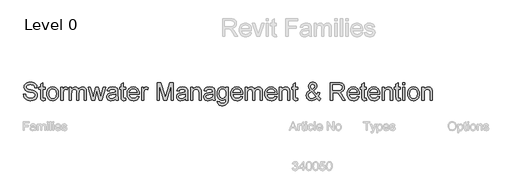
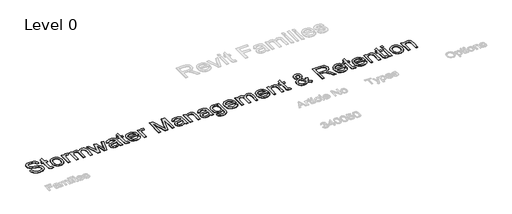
# One storey, part 8 of 10: 1 proxy.
"""IFC4 building model written with IfcOpenShell, lengths in millimetres."""

from ifc_helpers import new_model, si_unit, origin, origin_with_axes, place, context, project, spatial, polyline, outline, extrude, element, save

model = new_model("IFC4")

# Units and contexts
model_context = context("Model", 3, world=origin())
ifc_project = project(units=[si_unit("LENGTHUNIT", "METRE", prefix="MILLI")], contexts=[model_context])

# Site, building, storey
site = spatial("IfcSite", under=ifc_project)
building = spatial("IfcBuilding", under=site)
storey = spatial("IfcBuildingStorey", under=building, Name="Level 0", Elevation=0.0)

# Proxy
placement = place(None, origin())
element("IfcBuildingElementProxy", 1, Name="600mm Arial", ObjectType="600mm Arial", at=placement, inside=storey, context=model_context, shape_type="SweptSolid", body=[
    extrude(outline(polyline([(-15377.5518353, 12861.018595), (-15302.2096027, 12861.018595), (-15293.5643758, 12819.2088063), (-15277.9293911, 12785.602786), (-15253.5388148, 12758.9313414), (-15218.6268134, 12737.9252794), (-15175.952502, 12724.2952515), (-15128.2749954, 12719.7519089), (-15086.2996598, 12723.1916055), (-15049.5482484, 12733.5106955), (-15019.7682009, 12749.8446561), (-14998.7069567, 12771.3289646), (-14986.1805748, 12795.9954524), (-14982.0051141, 12821.8759507), (-14985.1321111, 12847.0942615), (-14994.513102, 12868.8912697), (-15013.5693893, 12887.4877046), (-15045.7222757, 12903.1042953), (-15155.4246867, 12931.8726673), (-15227.4375872, 12950.9105605), (-15273.5148071, 12969.0287488), (-15311.0203765, 12994.3758183), (-15337.5998507, 13025.0939649), (-15353.4371706, 13060.521001), (-15358.7162772, 13099.9947391), (-15357.0838008, 13122.4309423), (-15352.1863718, 13144.1221844), (-15344.02399, 13165.0684655), (-15332.5966555, 13185.2697856), (-15318.0331271, 13203.9030086), (-15300.4621633, 13220.1449987), (-15279.8837642, 13233.9957558), (-15256.2979297, 13245.45528), (-15203.2861342, 13260.8511415), (-15144.608956, 13265.9830953), (-15081.0389472, 13260.6120182), (-15025.4151896, 13244.4987868), (-15001.0797956, 13232.4966367), (-14979.7242458, 13217.9744949), (-14961.3485401, 13200.9323615), (-14945.9526786, 13181.3702364), (-14933.6562229, 13159.8583368), (-14924.5787347, 13136.9668796), (-14918.7202139, 13112.695865), (-14916.0806606, 13087.0452929), (-14991.4228932, 13087.0452929), (-14996.4628765, 13111.0863812), (-15005.2552562, 13132.0004727), (-15017.8000323, 13149.7875671), (-15034.0972046, 13164.4476646), (-15054.450276, 13175.9071888), (-15079.1627491, 13184.0925632), (-15108.2346237, 13189.0037878), (-15141.6659, 13190.6408627), (-15176.1640341, 13189.0221819), (-15205.640579, 13184.1661396), (-15230.0955346, 13176.0727357), (-15249.528901, 13164.7419702), (-15264.3361513, 13151.1211394), (-15274.9127587, 13136.1575392), (-15281.2587231, 13119.8511698), (-15283.3740446, 13102.2020311), (-15281.8749254, 13087.0177017), (-15277.3775681, 13073.249718), (-15269.8819724, 13060.89808), (-15259.3881385, 13049.9627877), (-15242.8702369, 13039.6069096), (-15216.8609799, 13029.1406668), (-15136.3683993, 13007.8770875), (-15053.3006448, 12987.680366), (-15003.0479643, 12970.0588184), (-14960.0977413, 12942.7251861), (-14943.4924678, 12926.65794), (-14930.1337528, 12908.9904072), (-14919.8652466, 12889.8145582), (-14912.5305993, 12869.2223635), (-14906.6628815, 12823.7889371), (-14908.3505402, 12800.2214968), (-14913.4135161, 12777.3438352), (-14921.8518094, 12755.1559524), (-14933.66542, 12733.6578483), (-14948.6474142, 12713.681856), (-14966.5908585, 12696.0603084), (-14987.4957529, 12680.7932056), (-15011.3620973, 12667.8805476), (-15037.4955146, 12657.6120414), (-15065.2016273, 12650.2773941), (-15125.3319395, 12644.4096763), (-15163.872177, 12645.9915688), (-15199.1474618, 12650.7372466), (-15231.1577939, 12658.6467095), (-15259.9031733, 12669.7199575), (-15285.5583439, 12683.9753848), (-15308.2980498, 12701.4313855), (-15328.1222908, 12722.0879595), (-15345.031067, 12745.9451069), (-15358.6518978, 12772.2302755), (-15368.6123029, 12800.170913), (-15374.912282, 12829.7670195), (-15377.5518353, 12861.018595)])), origin_with_axes(), (0.0, 0.0, 1.0), 10.0),
    extrude(outline(polyline([(-14642.9650674, 12716.6617001), (-14633.5472883, 12651.6201634), (-14689.90681, 12644.4096763), (-14726.0696101, 12647.5366732), (-14753.0353603, 12656.9176641), (-14772.0916477, 12671.3754265), (-14784.5260591, 12689.7327381), (-14791.3686642, 12721.2602251), (-14793.6495326, 12775.2285137), (-14793.6495326, 13021.1208393), (-14850.1562071, 13021.1208393), (-14850.1562071, 13096.4630719), (-14793.6495326, 13096.4630719), (-14793.6495326, 13204.0317673), (-14718.3073, 13248.3247595), (-14718.3073, 13096.4630719), (-14642.9650674, 13096.4630719), (-14642.9650674, 13021.1208393), (-14718.3073, 13021.1208393), (-14718.3073, 12777.4358057), (-14714.3341744, 12738.587467), (-14701.4583046, 12724.8286804), (-14690.5873917, 12721.0211018), (-14675.7801413, 12719.7519089), (-14642.9650674, 12716.6617001)])), origin_with_axes(), (0.0, 0.0, 1.0), 10.0),
    extrude(outline(polyline([(-14586.4583929, 12875.1452636), (-14582.3840998, 12932.4704755), (-14570.1612205, 12981.8678304), (-14549.789755, 13023.3373283), (-14521.2697034, 13056.8789693), (-14492.5565136, 13078.3172925), (-14460.8634798, 13093.6303806), (-14426.1906017, 13102.8182334), (-14388.5378795, 13105.880851), (-14346.9718126, 13102.1514473), (-14309.3880682, 13090.9632361), (-14275.7866465, 13072.3162175), (-14246.1675474, 13046.2103914), (-14221.9931018, 13013.5286746), (-14204.7256406, 12975.153984), (-14194.3651639, 12931.0863195), (-14190.9116717, 12881.3256812), (-14192.438382, 12840.9966174), (-14197.0185128, 12805.2108964), (-14204.6520642, 12773.9685179), (-14215.3390362, 12747.2694821), (-14228.9460715, 12724.2078795), (-14245.3398129, 12703.8778008), (-14264.5202604, 12686.2792458), (-14286.4874141, 12671.4122147), (-14310.3859482, 12659.5986041), (-14335.3605371, 12651.1603109), (-14361.4111809, 12646.0973349), (-14388.5378795, 12644.4096763), (-14430.7109517, 12648.1252844), (-14468.644184, 12659.2721089), (-14502.3375762, 12677.8501496), (-14531.7911284, 12703.8594067), (-14555.7080566, 12736.8584216), (-14572.7915768, 12776.4057361), (-14583.0416889, 12822.5013501), (-14586.4583929, 12875.1452636)]), holes=[polyline([(-14511.1161603, 12875.2924164), (-14508.9364595, 12838.7479387), (-14502.397357, 12807.1054886), (-14491.4988529, 12780.3650661), (-14476.2409472, 12758.5266712), (-14457.6813005, 12741.5627127), (-14436.8775737, 12729.4455994), (-14413.8297667, 12722.1753315), (-14388.5378795, 12719.7519089), (-14363.374751, 12722.1891271), (-14340.4189145, 12729.5007817), (-14319.67037, 12741.6868728), (-14301.1291175, 12758.7474004), (-14285.8712117, 12780.801926), (-14274.9727076, 12807.9700113), (-14268.4336051, 12840.2516564), (-14266.2539043, 12877.6468612), (-14268.4474007, 12913.0325106), (-14275.0278899, 12943.8472262), (-14285.9953719, 12970.0910081), (-14301.3498467, 12991.7638561), (-14319.9600771, 13008.7278146), (-14340.694826, 13020.8449278), (-14363.5540935, 13028.1151958), (-14388.5378795, 13030.5386184), (-14413.8297667, 13028.1243928), (-14436.8775737, 13020.881716), (-14457.6813005, 13008.8105881), (-14476.2409472, 12991.9110089), (-14491.4988529, 12970.1369933), (-14502.397357, 12943.442556), (-14508.9364595, 12911.8276971), (-14511.1161603, 12875.2924164)])]), origin_with_axes(), (0.0, 0.0, 1.0), 10.0),
    extrude(outline(polyline([(-14106.15166, 12653.8274553), (-14106.15166, 13096.4630719), (-14040.2272065, 13096.4630719), (-14040.2272065, 13030.9800768), (-14015.8734184, 13068.9454987), (-13993.4326167, 13091.312724), (-13970.9182386, 13102.2388193), (-13946.3437213, 13105.880851), (-13908.8197578, 13100.0683155), (-13870.7071831, 13082.6307089), (-13895.8703116, 13015.0875746), (-13922.3578152, 13026.6758574), (-13948.8453189, 13030.5386184), (-13971.3413029, 13026.8230102), (-13991.4460539, 13015.6761858), (-14007.688044, 12997.9442736), (-14018.5957452, 12974.4734023), (-14027.7560068, 12932.3877021), (-14030.8094274, 12886.4760291), (-14030.8094274, 12653.8274553), (-14106.15166, 12653.8274553)])), origin_with_axes(), (0.0, 0.0, 1.0), 10.0),
    extrude(outline(polyline([(-13823.6182877, 12653.8274553), (-13823.6182877, 13096.4630719), (-13748.2760551, 13096.4630719), (-13748.2760551, 13023.6224369), (-13725.6145242, 13057.0813043), (-13696.4782702, 13083.2928965), (-13661.8605744, 13100.2338624), (-13622.7547184, 13105.880851), (-13580.8529591, 13100.1234978), (-13563.0198794, 13092.9268063), (-13547.2653329, 13082.8514381), (-13522.1757809, 13055.2051062), (-13505.7682439, 13018.3249362), (-13478.3058529, 13056.6306489), (-13446.9807011, 13083.9918723), (-13411.7927882, 13100.4086063), (-13372.7421144, 13105.880851), (-13342.5803894, 13103.6045812), (-13316.1066813, 13096.7757716), (-13293.3209902, 13085.3944224), (-13274.2233161, 13069.4605335), (-13259.1263587, 13048.7901639), (-13248.3428178, 13023.1993726), (-13241.8726932, 12992.6881596), (-13239.715985, 12957.256525), (-13239.715985, 12653.8274553), (-13315.0582176, 12653.8274553), (-13315.0582176, 12924.8829094), (-13316.8056571, 12962.4620552), (-13322.0479755, 12987.7907306), (-13331.8704248, 13005.1363666), (-13347.3582568, 13018.7663946), (-13367.2790668, 13027.5955624), (-13390.4004502, 13030.5386184), (-13411.7514015, 13028.6532232), (-13431.2169576, 13022.9970375), (-13448.7971184, 13013.5700614), (-13464.491884, 13000.3722948), (-13477.3999435, 12983.0174617), (-13486.619986, 12961.1192859), (-13492.1520115, 12934.6777675), (-13493.99602, 12903.6929065), (-13493.99602, 12653.8274553), (-13569.3382527, 12653.8274553), (-13569.3382527, 12933.2706189), (-13573.6976543, 12975.8713539), (-13579.1469063, 12992.5915906), (-13586.7758592, 13006.2584067), (-13596.8880156, 13016.8809993), (-13609.786878, 13024.4685655), (-13625.4724466, 13029.0211052), (-13643.9447213, 13030.5386184), (-13672.9706107, 13026.4919164), (-13699.7156317, 13014.3518106), (-13721.7885515, 12994.4126065), (-13736.7981369, 12966.9686096), (-13745.4065755, 12928.8928231), (-13748.2760551, 12877.05825), (-13748.2760551, 12653.8274553), (-13823.6182877, 12653.8274553)])), origin_with_axes(), (0.0, 0.0, 1.0), 10.0),
    extrude(outline(polyline([(-13053.2733898, 12653.8274553), (-13187.9182001, 13096.4630719), (-13109.6329115, 13096.4630719), (-13033.2606093, 12838.2099113), (-13010.4519256, 12745.9451069), (-12991.7635202, 12834.825397), (-12930.9894146, 13096.4630719), (-12841.2262078, 13096.4630719), (-12780.7464078, 12835.561161), (-12764.1181416, 12755.0685804), (-12740.2793883, 12839.9757449), (-12663.7599333, 13096.4630719), (-12585.1803392, 13096.4630719), (-12720.855219, 12653.8274553), (-12811.942801, 12653.8274553), (-12869.7738506, 12913.4049911), (-12886.5492696, 12994.3390301), (-12961.1557382, 12653.8274553), (-13053.2733898, 12653.8274553)])), origin_with_axes(), (0.0, 0.0, 1.0), 10.0),
    extrude(outline(polyline([(-12250.8491819, 12710.3341298), (-12286.8464352, 12679.4688304), (-12323.9105462, 12659.2721089), (-12362.8876436, 12648.1252844), (-12404.6238559, 12644.4096763), (-12438.1700954, 12646.6445594), (-12467.5868594, 12653.3492087), (-12492.874148, 12664.5236243), (-12514.0319613, 12680.1678062), (-12530.7384024, 12699.2884729), (-12542.6715746, 12720.8923431), (-12549.8314779, 12744.9794167), (-12552.2181124, 12771.5496938), (-12548.6128688, 12802.7828752), (-12537.7971382, 12831.146577), (-12521.1136897, 12855.4267887), (-12499.9052927, 12874.4094996), (-12474.9812875, 12888.7568975), (-12447.1510146, 12899.1311697), (-12381.962325, 12910.4619352), (-12304.9278352, 12922.3813118), (-12251.2906403, 12936.3608276), (-12250.8491819, 12953.1362466), (-12256.0363181, 12986.760661), (-12262.5202382, 12999.2134665), (-12271.5977265, 13008.7600043), (-12287.2878936, 13018.288148), (-12306.3993632, 13025.0939649), (-12354.8862102, 13030.5386184), (-12399.7678136, 13026.9149807), (-12431.1113596, 13016.0440678), (-12452.4853035, 12995.9393167), (-12467.4581007, 12964.6141649), (-12542.8003333, 12974.0319439), (-12529.7221284, 13015.2347274), (-12510.2059885, 13047.608343), (-12482.4308979, 13072.3668012), (-12444.5758406, 13090.7241128), (-12398.2778915, 13102.0916665), (-12345.1741255, 13105.880851), (-12294.2408633, 13102.5331249), (-12253.8658143, 13092.4899464), (-12223.4235792, 13077.3883905), (-12202.2887586, 13058.865532), (-12188.2724546, 13035.9648778), (-12179.1857693, 13007.7299347), (-12175.5069493, 12941.8054812), (-12175.5069493, 12848.0691488), (-12171.6809766, 12717.1767349), (-12166.0155939, 12684.8215134), (-12156.6713912, 12653.8274553), (-12232.0136238, 12653.8274553), (-12244.0801532, 12680.0206534), (-12250.8491819, 12710.3341298)]), holes=[polyline([(-12250.8491819, 12861.018595), (-12301.4697445, 12848.473819), (-12372.3973931, 12837.9156057), (-12437.2182007, 12825.7019235), (-12454.0855902, 12817.3510022), (-12466.5751839, 12805.8362957), (-12474.3007058, 12792.0407209), (-12476.8758798, 12776.8471945), (-12471.2656793, 12754.443181), (-12454.4350781, 12736.0858695), (-12426.7519579, 12723.835399), (-12388.5842009, 12719.7519089), (-12348.1171815, 12724.2584633), (-12312.3590515, 12737.7781266), (-12283.3699503, 12757.6989367), (-12263.210017, 12781.4089313), (-12254.2704845, 12805.8362957), (-12251.2906403, 12839.6814393), (-12250.8491819, 12861.018595)])]), origin_with_axes(), (0.0, 0.0, 1.0), 10.0),
    extrude(outline(polyline([(-11911.8091352, 12716.6617001), (-11902.3913561, 12651.6201634), (-11958.7508778, 12644.4096763), (-11994.9136779, 12647.5366732), (-12021.8794281, 12656.9176641), (-12040.9357155, 12671.3754265), (-12053.3701269, 12689.7327381), (-12060.212732, 12721.2602251), (-12062.4936004, 12775.2285137), (-12062.4936004, 13021.1208393), (-12119.0002749, 13021.1208393), (-12119.0002749, 13096.4630719), (-12062.4936004, 13096.4630719), (-12062.4936004, 13204.0317673), (-11987.1513678, 13248.3247595), (-11987.1513678, 13096.4630719), (-11911.8091352, 13096.4630719), (-11911.8091352, 13021.1208393), (-11987.1513678, 13021.1208393), (-11987.1513678, 12777.4358057), (-11983.1782422, 12738.587467), (-11970.3023724, 12724.8286804), (-11959.4314595, 12721.0211018), (-11944.6242092, 12719.7519089), (-11911.8091352, 12716.6617001)])), origin_with_axes(), (0.0, 0.0, 1.0), 10.0),
    extrude(outline(polyline([(-11526.5631098, 12785.6763624), (-11452.6924052, 12776.2585833), (-11464.0185721, 12746.6716739), (-11479.3086676, 12720.5980375), (-11498.5626915, 12698.0376741), (-11521.7806439, 12678.9905838), (-11548.7234015, 12663.8614368), (-11579.151841, 12653.0549031), (-11613.0659625, 12646.570983), (-11650.4657658, 12644.4096763), (-11697.2143703, 12648.13908), (-11738.8678093, 12659.3272912), (-11775.4260825, 12677.9743098), (-11806.8891902, 12704.0801359), (-11832.1902744, 12736.9182025), (-11850.2624774, 12775.7619426), (-11861.1057992, 12820.6113564), (-11864.7202398, 12871.4664437), (-11861.069011, 12924.0459778), (-11850.1153246, 12970.3899122), (-11831.8591806, 13010.4982467), (-11806.300579, 13044.3709814), (-11774.9202448, 13071.2815494), (-11739.198903, 13090.5033836), (-11699.1365538, 13102.0364842), (-11654.733197, 13105.880851), (-11611.7599814, 13102.0456812), (-11572.8978471, 13090.5401718), (-11538.1467942, 13071.3643228), (-11507.5068225, 13044.5181342), (-11482.4954453, 13010.7189759), (-11464.6301759, 12970.6842178), (-11453.9110143, 12924.4138598), (-11450.3379604, 12871.9079021), (-11450.7794188, 12851.6008159), (-11789.3780072, 12851.6008159), (-11785.014007, 12821.5356599), (-11776.3365905, 12795.2045061), (-11763.3457575, 12772.6073545), (-11746.0415082, 12753.7442052), (-11725.3803356, 12738.8725756), (-11702.318733, 12728.249983), (-11676.8567004, 12721.8764274), (-11648.9942378, 12719.7519089), (-11608.8951004, 12723.6882462), (-11575.1235332, 12735.4972583), (-11547.6795364, 12755.914709), (-11526.5631098, 12785.6763624)]), holes=[polyline([(-11789.3780072, 12926.9430486), (-11525.680193, 12926.9430486), (-11535.8705243, 12966.7478804), (-11544.6353128, 12982.4012593), (-11555.8465167, 12995.2219469), (-11576.3927261, 13010.6729907), (-11599.7716269, 13021.7094505), (-11625.983219, 13028.3313264), (-11655.0275026, 13030.5386184), (-11681.5196047, 13028.7773833), (-11705.813612, 13023.4936782), (-11727.9095243, 13014.6875029), (-11747.8073417, 13002.3588576), (-11764.5045858, 12987.0779592), (-11776.9987781, 12969.4150249), (-11785.2899185, 12949.3700547), (-11789.3780072, 12926.9430486)])]), origin_with_axes(), (0.0, 0.0, 1.0), 10.0),
    extrude(outline(polyline([(-11374.9957278, 12653.8274553), (-11374.9957278, 13096.4630719), (-11309.0712743, 13096.4630719), (-11309.0712743, 13030.9800768), (-11284.7174862, 13068.9454987), (-11262.2766845, 13091.312724), (-11239.7623064, 13102.2388193), (-11215.1877891, 13105.880851), (-11177.6638256, 13100.0683155), (-11139.5512509, 13082.6307089), (-11164.7143794, 13015.0875746), (-11191.201883, 13026.6758574), (-11217.6893867, 13030.5386184), (-11240.1853707, 13026.8230102), (-11260.2901217, 13015.6761858), (-11276.5321118, 12997.9442736), (-11287.439813, 12974.4734023), (-11296.6000746, 12932.3877021), (-11299.6534952, 12886.4760291), (-11299.6534952, 12653.8274553), (-11374.9957278, 12653.8274553)])), origin_with_axes(), (0.0, 0.0, 1.0), 10.0),
    extrude(outline(polyline([(-10847.6000995, 12653.8274553), (-10847.6000995, 13256.5653162), (-10717.9584844, 13256.5653162), (-10594.6444397, 12831.7351882), (-10569.7756168, 12743.002051), (-10542.8466547, 12839.0928281), (-10421.5927491, 13256.5653162), (-10291.951134, 13256.5653162), (-10291.951134, 12653.8274553), (-10367.2933666, 12653.8274553), (-10367.2933666, 13181.2230836), (-10518.7135958, 12653.8274553), (-10620.8376377, 12653.8274553), (-10772.2578669, 13181.2230836), (-10772.2578669, 12653.8274553), (-10847.6000995, 12653.8274553)])), origin_with_axes(), (0.0, 0.0, 1.0), 10.0),
    extrude(outline(polyline([(-9886.9866337, 12710.3341298), (-9922.983887, 12679.4688304), (-9960.047998, 12659.2721089), (-9999.0250954, 12648.1252844), (-10040.7613077, 12644.4096763), (-10074.3075472, 12646.6445594), (-10103.7243112, 12653.3492087), (-10129.0115998, 12664.5236243), (-10150.1694131, 12680.1678062), (-10166.8758542, 12699.2884729), (-10178.8090264, 12720.8923431), (-10185.9689297, 12744.9794167), (-10188.3555642, 12771.5496938), (-10184.7503206, 12802.7828752), (-10173.93459, 12831.146577), (-10157.2511415, 12855.4267887), (-10136.0427445, 12874.4094996), (-10111.1187393, 12888.7568975), (-10083.2884664, 12899.1311697), (-10018.0997768, 12910.4619352), (-9941.065287, 12922.3813118), (-9887.4280921, 12936.3608276), (-9886.9866337, 12953.1362466), (-9892.1737699, 12986.760661), (-9898.65769, 12999.2134665), (-9907.7351783, 13008.7600043), (-9923.4253454, 13018.288148), (-9942.536815, 13025.0939649), (-9991.023662, 13030.5386184), (-10035.9052654, 13026.9149807), (-10067.2488114, 13016.0440678), (-10088.6227553, 12995.9393167), (-10103.5955525, 12964.6141649), (-10178.9377851, 12974.0319439), (-10165.8595802, 13015.2347274), (-10146.3434403, 13047.608343), (-10118.5683497, 13072.3668012), (-10080.7132924, 13090.7241128), (-10034.4153433, 13102.0916665), (-9981.3115773, 13105.880851), (-9930.3783151, 13102.5331249), (-9890.0032661, 13092.4899464), (-9859.561031, 13077.3883905), (-9838.4262104, 13058.865532), (-9824.4099064, 13035.9648778), (-9815.3232211, 13007.7299347), (-9811.6444011, 12941.8054812), (-9811.6444011, 12848.0691488), (-9807.8184284, 12717.1767349), (-9802.1530456, 12684.8215134), (-9792.808843, 12653.8274553), (-9868.1510756, 12653.8274553), (-9880.217605, 12680.0206534), (-9886.9866337, 12710.3341298)]), holes=[polyline([(-9886.9866337, 12861.018595), (-9937.6071963, 12848.473819), (-10008.5348449, 12837.9156057), (-10073.3556525, 12825.7019235), (-10090.223042, 12817.3510022), (-10102.7126357, 12805.8362957), (-10110.4381576, 12792.0407209), (-10113.0133316, 12776.8471945), (-10107.4031311, 12754.443181), (-10090.5725299, 12736.0858695), (-10062.8894097, 12723.835399), (-10024.7216527, 12719.7519089), (-9984.2546333, 12724.2584633), (-9948.4965033, 12737.7781266), (-9919.5074021, 12757.6989367), (-9899.3474688, 12781.4089313), (-9890.4079363, 12805.8362957), (-9887.4280921, 12839.6814393), (-9886.9866337, 12861.018595)])]), origin_with_axes(), (0.0, 0.0, 1.0), 10.0),
    extrude(outline(polyline([(-9708.0488313, 12653.8274553), (-9708.0488313, 13096.4630719), (-9632.7065987, 13096.4630719), (-9632.7065987, 13034.6588967), (-9606.5317947, 13065.8185017), (-9575.0962782, 13088.0753624), (-9538.4000492, 13101.4294789), (-9496.4431077, 13105.880851), (-9459.3054202, 13102.2940016), (-9425.2947298, 13091.5334532), (-9396.931028, 13074.9419752), (-9376.7343064, 13053.8623369), (-9363.0307021, 13028.3497205), (-9354.1463519, 12998.4593084), (-9350.1732264, 12925.6186734), (-9350.1732264, 12653.8274553), (-9425.515459, 12653.8274553), (-9425.515459, 12915.4651303), (-9427.6859628, 12954.4238336), (-9434.1974741, 12982.1253478), (-9446.2088212, 13001.9725815), (-9464.8788325, 13017.368443), (-9488.8095563, 13027.2460745), (-9516.603041, 13030.5386184), (-9539.4807026, 13028.6900114), (-9560.7304863, 13023.1441903), (-9580.3523922, 13013.9011552), (-9598.3464203, 13000.960906), (-9613.3789983, 12982.8519148), (-9624.1165541, 12958.1026535), (-9630.5590875, 12926.7131223), (-9632.7065987, 12888.6833211), (-9632.7065987, 12653.8274553), (-9708.0488313, 12653.8274553)])), origin_with_axes(), (0.0, 0.0, 1.0), 10.0),
    extrude(outline(polyline([(-8964.0442842, 12710.3341298), (-9000.0415375, 12679.4688304), (-9037.1056485, 12659.2721089), (-9076.0827459, 12648.1252844), (-9117.8189582, 12644.4096763), (-9151.3651977, 12646.6445594), (-9180.7819617, 12653.3492087), (-9206.0692503, 12664.5236243), (-9227.2270636, 12680.1678062), (-9243.9335047, 12699.2884729), (-9255.8666769, 12720.8923431), (-9263.0265802, 12744.9794167), (-9265.4132147, 12771.5496938), (-9261.8079711, 12802.7828752), (-9250.9922405, 12831.146577), (-9234.308792, 12855.4267887), (-9213.100395, 12874.4094996), (-9188.1763898, 12888.7568975), (-9160.3461169, 12899.1311697), (-9095.1574273, 12910.4619352), (-9018.1229375, 12922.3813118), (-8964.4857426, 12936.3608276), (-8964.0442842, 12953.1362466), (-8969.2314204, 12986.760661), (-8975.7153405, 12999.2134665), (-8984.7928288, 13008.7600043), (-9000.4829959, 13018.288148), (-9019.5944655, 13025.0939649), (-9068.0813125, 13030.5386184), (-9112.9629159, 13026.9149807), (-9144.3064619, 13016.0440678), (-9165.6804058, 12995.9393167), (-9180.653203, 12964.6141649), (-9255.9954356, 12974.0319439), (-9242.9172307, 13015.2347274), (-9223.4010908, 13047.608343), (-9195.6260002, 13072.3668012), (-9157.7709429, 13090.7241128), (-9111.4729938, 13102.0916665), (-9058.3692278, 13105.880851), (-9007.4359656, 13102.5331249), (-8967.0609166, 13092.4899464), (-8936.6186815, 13077.3883905), (-8915.4838609, 13058.865532), (-8901.4675569, 13035.9648778), (-8892.3808716, 13007.7299347), (-8888.7020516, 12941.8054812), (-8888.7020516, 12848.0691488), (-8884.8760789, 12717.1767349), (-8879.2106961, 12684.8215134), (-8869.8664935, 12653.8274553), (-8945.2087261, 12653.8274553), (-8957.2752555, 12680.0206534), (-8964.0442842, 12710.3341298)]), holes=[polyline([(-8964.0442842, 12861.018595), (-9014.6648468, 12848.473819), (-9085.5924954, 12837.9156057), (-9150.413303, 12825.7019235), (-9167.2806925, 12817.3510022), (-9179.7702862, 12805.8362957), (-9187.4958081, 12792.0407209), (-9190.0709821, 12776.8471945), (-9184.4607816, 12754.443181), (-9167.6301804, 12736.0858695), (-9139.9470602, 12723.835399), (-9101.7793032, 12719.7519089), (-9061.3122838, 12724.2584633), (-9025.5541538, 12737.7781266), (-8996.5650526, 12757.6989367), (-8976.4051193, 12781.4089313), (-8967.4655868, 12805.8362957), (-8964.4857426, 12839.6814393), (-8964.0442842, 12861.018595)])]), origin_with_axes(), (0.0, 0.0, 1.0), 10.0),
    extrude(outline(polyline([(-8803.9420399, 12616.156339), (-8728.5998073, 12606.73856), (-8720.2856742, 12583.1941123), (-8704.1724428, 12567.0073045), (-8672.4978031, 12554.4257402), (-8631.0375022, 12550.2318855), (-8586.8180864, 12554.9775632), (-8568.9574155, 12560.9096604), (-8553.929436, 12569.2145964), (-8531.1207523, 12592.0232801), (-8517.1412365, 12622.4839093), (-8513.0577463, 12654.8943131), (-8511.9908886, 12710.3341298), (-8537.0620465, 12685.6124597), (-8565.0394723, 12667.9541239), (-8595.9231658, 12657.3591225), (-8629.713127, 12653.8274553), (-8671.0216765, 12657.9385366), (-8707.3914103, 12670.2717805), (-8738.8223283, 12690.827187), (-8765.3144304, 12719.6047561), (-8786.3342879, 12754.1304813), (-8801.3484719, 12791.9303563), (-8810.3569822, 12833.0043811), (-8813.359819, 12877.3525556), (-8807.9703478, 12938.1818435), (-8791.8019341, 12994.1183009), (-8779.8181781, 13019.3412102), (-8765.424795, 13041.519896), (-8748.6217849, 13060.6543582), (-8729.4091477, 13076.744597), (-8708.0949846, 13089.4917081), (-8684.9873968, 13098.5967875), (-8660.0863842, 13104.0598351), (-8633.391947, 13105.880851), (-8598.1580489, 13101.7605727), (-8566.1799064, 13089.3997376), (-8537.4575197, 13068.7983459), (-8511.9908886, 13039.9563975), (-8511.9908886, 13096.4630719), (-8436.6486559, 13096.4630719), (-8436.6486559, 12714.3072553), (-8441.7990039, 12626.0707588), (-8448.2369388, 12593.2510863), (-8457.2500477, 12567.9637977), (-8469.0544612, 12547.5693396), (-8483.86631, 12529.4281587), (-8501.6855942, 12513.540255), (-8522.5123136, 12499.9056286), (-8546.1349362, 12488.9611392), (-8572.3419299, 12481.1436468), (-8601.1332945, 12476.4531514), (-8632.5090302, 12474.8896529), (-8669.4213899, 12477.0923463), (-8702.6089444, 12483.7004267), (-8732.0716936, 12494.7138939), (-8757.8096377, 12510.132748), (-8778.599569, 12529.9753831), (-8793.2182798, 12554.2601933), (-8801.6657701, 12582.9871786), (-8803.9420399, 12616.156339)]), holes=[polyline([(-8738.0175864, 12882.5029035), (-8736.008031, 12845.250253), (-8729.9793648, 12813.3962707), (-8719.9315878, 12786.9409568), (-8705.8647, 12765.8843111), (-8688.7627858, 12749.8216635), (-8669.6099294, 12738.3483437), (-8648.4061309, 12731.4643519), (-8625.1513903, 12729.1696879), (-8602.1265759, 12731.4505563), (-8581.023945, 12738.2931614), (-8561.8434974, 12749.6975033), (-8544.5852333, 12765.6635819), (-8530.3252075, 12786.5132939), (-8520.1394748, 12812.5685363), (-8514.0280351, 12843.8293088), (-8511.9908886, 12880.2956116), (-8514.0878159, 12915.2398026), (-8520.378598, 12945.6130598), (-8530.8632349, 12971.4153832), (-8545.5417265, 12992.6467729), (-8563.1724711, 13009.2244553), (-8582.513867, 13021.065657), (-8603.5659142, 13028.1703781), (-8626.3286127, 13030.5386184), (-8648.7096335, 13028.2071663), (-8669.352412, 13021.2128098), (-8688.256948, 13009.5555491), (-8705.4232416, 12993.2353841), (-8719.6832675, 12972.3258912), (-8729.8690002, 12946.9006468), (-8735.9804398, 12916.9596509), (-8738.0175864, 12882.5029035)])]), origin_with_axes(), (0.0, 0.0, 1.0), 10.0),
    extrude(outline(polyline([(-8013.7315143, 12785.6763624), (-7939.8608097, 12776.2585833), (-7951.1869766, 12746.6716739), (-7966.477072, 12720.5980375), (-7985.7310959, 12698.0376741), (-8008.9490484, 12678.9905838), (-8035.891806, 12663.8614368), (-8066.3202455, 12653.0549031), (-8100.2343669, 12646.570983), (-8137.6341703, 12644.4096763), (-8184.3827748, 12648.13908), (-8226.0362137, 12659.3272912), (-8262.594487, 12677.9743098), (-8294.0575946, 12704.0801359), (-8319.3586788, 12736.9182025), (-8337.4308818, 12775.7619426), (-8348.2742037, 12820.6113564), (-8351.8886443, 12871.4664437), (-8348.2374155, 12924.0459778), (-8337.283729, 12970.3899122), (-8319.027585, 13010.4982467), (-8293.4689834, 13044.3709814), (-8262.0886492, 13071.2815494), (-8226.3673075, 13090.5033836), (-8186.3049582, 13102.0364842), (-8141.9016014, 13105.880851), (-8098.9283858, 13102.0456812), (-8060.0662516, 13090.5401718), (-8025.3151986, 13071.3643228), (-7994.6752269, 13044.5181342), (-7969.6638498, 13010.7189759), (-7951.7985804, 12970.6842178), (-7941.0794188, 12924.4138598), (-7937.5063649, 12871.9079021), (-7937.9478233, 12851.6008159), (-8276.5464116, 12851.6008159), (-8272.1824115, 12821.5356599), (-8263.5049949, 12795.2045061), (-8250.514162, 12772.6073545), (-8233.2099126, 12753.7442052), (-8212.5487401, 12738.8725756), (-8189.4871375, 12728.249983), (-8164.0251049, 12721.8764274), (-8136.1626423, 12719.7519089), (-8096.0635048, 12723.6882462), (-8062.2919377, 12735.4972583), (-8034.8479408, 12755.914709), (-8013.7315143, 12785.6763624)]), holes=[polyline([(-8276.5464116, 12926.9430486), (-8012.8485975, 12926.9430486), (-8023.0389288, 12966.7478804), (-8031.8037173, 12982.4012593), (-8043.0149211, 12995.2219469), (-8063.5611305, 13010.6729907), (-8086.9400313, 13021.7094505), (-8113.1516235, 13028.3313264), (-8142.195907, 13030.5386184), (-8168.6880092, 13028.7773833), (-8192.9820164, 13023.4936782), (-8215.0779288, 13014.6875029), (-8234.9757462, 13002.3588576), (-8251.6729902, 12987.0779592), (-8264.1671825, 12969.4150249), (-8272.458323, 12949.3700547), (-8276.5464116, 12926.9430486)])]), origin_with_axes(), (0.0, 0.0, 1.0), 10.0),
    extrude(outline(polyline([(-7862.1641323, 12653.8274553), (-7862.1641323, 13096.4630719), (-7786.8218997, 13096.4630719), (-7786.8218997, 13023.6224369), (-7764.1603688, 13057.0813043), (-7735.0241147, 13083.2928965), (-7700.406419, 13100.2338624), (-7661.3005629, 13105.880851), (-7619.3988037, 13100.1234978), (-7601.5657239, 13092.9268063), (-7585.8111775, 13082.8514381), (-7560.7216254, 13055.2051062), (-7544.3140884, 13018.3249362), (-7516.8516975, 13056.6306489), (-7485.5265456, 13083.9918723), (-7450.3386328, 13100.4086063), (-7411.287959, 13105.880851), (-7381.1262339, 13103.6045812), (-7354.6525258, 13096.7757716), (-7331.8668348, 13085.3944224), (-7312.7691607, 13069.4605335), (-7297.6722033, 13048.7901639), (-7286.8886623, 13023.1993726), (-7280.4185377, 12992.6881596), (-7278.2618295, 12957.256525), (-7278.2618295, 12653.8274553), (-7353.6040621, 12653.8274553), (-7353.6040621, 12924.8829094), (-7355.3515016, 12962.4620552), (-7360.5938201, 12987.7907306), (-7370.4162693, 13005.1363666), (-7385.9041013, 13018.7663946), (-7405.8249114, 13027.5955624), (-7428.9462948, 13030.5386184), (-7450.2972461, 13028.6532232), (-7469.7628021, 13022.9970375), (-7487.342963, 13013.5700614), (-7503.0377286, 13000.3722948), (-7515.9457881, 12983.0174617), (-7525.1658306, 12961.1192859), (-7530.6978561, 12934.6777675), (-7532.5418646, 12903.6929065), (-7532.5418646, 12653.8274553), (-7607.8840972, 12653.8274553), (-7607.8840972, 12933.2706189), (-7612.2434989, 12975.8713539), (-7617.6927509, 12992.5915906), (-7625.3217038, 13006.2584067), (-7635.4338601, 13016.8809993), (-7648.3327226, 13024.4685655), (-7664.0182912, 13029.0211052), (-7682.4905658, 13030.5386184), (-7711.5164553, 13026.4919164), (-7738.2614763, 13014.3518106), (-7760.334396, 12994.4126065), (-7775.3439814, 12966.9686096), (-7783.9524201, 12928.8928231), (-7786.8218997, 12877.05825), (-7786.8218997, 12653.8274553), (-7862.1641323, 12653.8274553)])), origin_with_axes(), (0.0, 0.0, 1.0), 10.0),
    extrude(outline(polyline([(-6855.3446879, 12785.6763624), (-6781.4739832, 12776.2585833), (-6792.8001502, 12746.6716739), (-6808.0902456, 12720.5980375), (-6827.3442695, 12698.0376741), (-6850.5622219, 12678.9905838), (-6877.5049796, 12663.8614368), (-6907.9334191, 12653.0549031), (-6941.8475405, 12646.570983), (-6979.2473439, 12644.4096763), (-7025.9959484, 12648.13908), (-7067.6493873, 12659.3272912), (-7104.2076606, 12677.9743098), (-7135.6707682, 12704.0801359), (-7160.9718524, 12736.9182025), (-7179.0440554, 12775.7619426), (-7189.8873772, 12820.6113564), (-7193.5018178, 12871.4664437), (-7189.850589, 12924.0459778), (-7178.8969026, 12970.3899122), (-7160.6407586, 13010.4982467), (-7135.082157, 13044.3709814), (-7103.7018228, 13071.2815494), (-7067.9804811, 13090.5033836), (-7027.9181318, 13102.0364842), (-6983.514775, 13105.880851), (-6940.5415594, 13102.0456812), (-6901.6794252, 13090.5401718), (-6866.9283722, 13071.3643228), (-6836.2884005, 13044.5181342), (-6811.2770234, 13010.7189759), (-6793.411754, 12970.6842178), (-6782.6925924, 12924.4138598), (-6779.1195385, 12871.9079021), (-6779.5609969, 12851.6008159), (-7118.1595852, 12851.6008159), (-7113.7955851, 12821.5356599), (-7105.1181685, 12795.2045061), (-7092.1273355, 12772.6073545), (-7074.8230862, 12753.7442052), (-7054.1619136, 12738.8725756), (-7031.1003111, 12728.249983), (-7005.6382785, 12721.8764274), (-6977.7758159, 12719.7519089), (-6937.6766784, 12723.6882462), (-6903.9051112, 12735.4972583), (-6876.4611144, 12755.914709), (-6855.3446879, 12785.6763624)]), holes=[polyline([(-7118.1595852, 12926.9430486), (-6854.4617711, 12926.9430486), (-6864.6521024, 12966.7478804), (-6873.4168909, 12982.4012593), (-6884.6280947, 12995.2219469), (-6905.1743041, 13010.6729907), (-6928.5532049, 13021.7094505), (-6954.7647971, 13028.3313264), (-6983.8090806, 13030.5386184), (-7010.3011828, 13028.7773833), (-7034.59519, 13023.4936782), (-7056.6911024, 13014.6875029), (-7076.5889198, 13002.3588576), (-7093.2861638, 12987.0779592), (-7105.7803561, 12969.4150249), (-7114.0714966, 12949.3700547), (-7118.1595852, 12926.9430486)])]), origin_with_axes(), (0.0, 0.0, 1.0), 10.0),
    extrude(outline(polyline([(-6703.7773059, 12653.8274553), (-6703.7773059, 13096.4630719), (-6628.4350733, 13096.4630719), (-6628.4350733, 13034.6588967), (-6602.2602693, 13065.8185017), (-6570.8247528, 13088.0753624), (-6534.1285238, 13101.4294789), (-6492.1715822, 13105.880851), (-6455.0338948, 13102.2940016), (-6421.0232044, 13091.5334532), (-6392.6595025, 13074.9419752), (-6372.462781, 13053.8623369), (-6358.7591767, 13028.3497205), (-6349.8748265, 12998.4593084), (-6345.901701, 12925.6186734), (-6345.901701, 12653.8274553), (-6421.2439336, 12653.8274553), (-6421.2439336, 12915.4651303), (-6423.4144373, 12954.4238336), (-6429.9259487, 12982.1253478), (-6441.9372958, 13001.9725815), (-6460.6073071, 13017.368443), (-6484.5380308, 13027.2460745), (-6512.3315156, 13030.5386184), (-6535.2091772, 13028.6900114), (-6556.4589609, 13023.1441903), (-6576.0808668, 13013.9011552), (-6594.0748949, 13000.960906), (-6609.1074729, 12982.8519148), (-6619.8450287, 12958.1026535), (-6626.2875621, 12926.7131223), (-6628.4350733, 12888.6833211), (-6628.4350733, 12653.8274553), (-6703.7773059, 12653.8274553)])), origin_with_axes(), (0.0, 0.0, 1.0), 10.0),
    extrude(outline(polyline([(-6082.2038868, 12716.6617001), (-6072.7861077, 12651.6201634), (-6129.1456294, 12644.4096763), (-6165.3084295, 12647.5366732), (-6192.2741798, 12656.9176641), (-6211.3304671, 12671.3754265), (-6223.7648786, 12689.7327381), (-6230.6074837, 12721.2602251), (-6232.888352, 12775.2285137), (-6232.888352, 13021.1208393), (-6289.3950265, 13021.1208393), (-6289.3950265, 13096.4630719), (-6232.888352, 13096.4630719), (-6232.888352, 13204.0317673), (-6157.5461194, 13248.3247595), (-6157.5461194, 13096.4630719), (-6082.2038868, 13096.4630719), (-6082.2038868, 13021.1208393), (-6157.5461194, 13021.1208393), (-6157.5461194, 12777.4358057), (-6153.5729939, 12738.587467), (-6140.697124, 12724.8286804), (-6129.8262111, 12721.0211018), (-6115.0189608, 12719.7519089), (-6082.2038868, 12716.6617001)])), origin_with_axes(), (0.0, 0.0, 1.0), 10.0),
    extrude(outline(polyline([(-5425.7552546, 12728.2867712), (-5464.0517703, 12691.5905421), (-5505.659224, 12665.37895), (-5550.651192, 12649.6519947), (-5599.1012507, 12644.4096763), (-5643.0631492, 12648.2908313), (-5682.2425817, 12659.9342965), (-5716.6395482, 12679.3400717), (-5746.2540488, 12706.508157), (-5765.5034742, 12732.5633994), (-5779.2530638, 12760.1085637), (-5787.5028175, 12789.1436502), (-5790.2527354, 12819.6686588), (-5788.0408449, 12846.7355766), (-5781.4051735, 12872.4597251), (-5770.345721, 12896.8411043), (-5754.8624875, 12919.8797142), (-5734.9830642, 12941.5663579), (-5710.7350422, 12961.8918381), (-5682.1184215, 12980.8561549), (-5649.1332021, 12998.4593084), (-5682.0034584, 13040.9864671), (-5701.7403274, 13074.6844578), (-5711.617959, 13103.4528298), (-5714.9105028, 13131.1911323), (-5712.3169348, 13157.5222861), (-5704.5362306, 13182.0692122), (-5691.5683902, 13204.8319107), (-5673.4134138, 13225.8103814), (-5651.331297, 13243.3859438), (-5626.5820358, 13255.9399168), (-5599.1656301, 13263.4723007), (-5569.0820799, 13265.9830953), (-5540.3596932, 13263.5826653), (-5514.3780273, 13256.3813752), (-5491.1370822, 13244.3792251), (-5470.636858, 13227.576215), (-5453.8982273, 13207.4070846), (-5441.9420624, 13185.3065738), (-5434.7683635, 13161.2746824), (-5432.3771305, 13135.3114106), (-5434.1475626, 13113.9282697), (-5439.4588589, 13093.336075), (-5448.3110195, 13073.5348266), (-5460.7040442, 13054.5245245), (-5496.1126862, 13018.8767591), (-5545.684785, 12986.392779), (-5436.6445617, 12850.5707464), (-5418.0665209, 12889.3822968), (-5404.1237933, 12934.0063829), (-5328.7815607, 12917.6724223), (-5351.9581264, 12847.8852078), (-5366.1399773, 12818.8133331), (-5382.0508736, 12793.6226135), (-5339.2294094, 12743.6642386), (-5291.1104444, 12702.3878787), (-5347.6171188, 12644.4096763), (-5386.0607873, 12679.579195), (-5425.7552546, 12728.2867712)]), holes=[polyline([(-5583.7973597, 13033.9231328), (-5544.3971981, 13058.9207143), (-5521.8460318, 13080.6441461), (-5511.2510303, 13101.7789668), (-5507.7193631, 13125.0107148), (-5512.3730704, 13151.3326715), (-5526.3341921, 13172.3203393), (-5547.2850717, 13186.0607319), (-5572.9080527, 13190.6408627), (-5599.0828566, 13186.0975201), (-5620.5119829, 13172.4674921), (-5634.8041984, 13152.2891647), (-5639.5682702, 13128.1009235), (-5633.0935471, 13100.5097739), (-5613.522225, 13069.8284155), (-5583.7973597, 13033.9231328)]), polyline([(-5476.2286644, 12782.5861536), (-5610.7263218, 12950.4874962), (-5662.1010424, 12917.7092105), (-5693.4997707, 12887.3589459), (-5709.5578198, 12858.3698447), (-5714.9105028, 12829.675049), (-5713.0802899, 12812.0718956), (-5707.5896511, 12794.1376483), (-5685.627096, 12757.2758724), (-5669.4586823, 12740.8591383), (-5650.2368481, 12729.1328997), (-5627.9615933, 12722.0971566), (-5602.6329179, 12719.7519089), (-5568.548651, 12724.1297046), (-5533.3975264, 12737.2630918), (-5501.2630341, 12757.3494488), (-5476.2286644, 12782.5861536)])]), origin_with_axes(), (0.0, 0.0, 1.0), 10.0),
    extrude(outline(polyline([(-4970.9059558, 12653.8274553), (-4970.9059558, 13256.5653162), (-4711.1812672, 13256.5653162), (-4641.3756586, 13252.5002202), (-4590.5895492, 13240.304932), (-4570.9906359, 13230.6112415), (-4553.4702559, 13217.7905539), (-4538.0284091, 13201.8428694), (-4524.6650956, 13182.768188), (-4513.8815547, 13161.5919807), (-4506.1790254, 13139.3397185), (-4501.5575078, 13116.0114015), (-4500.017002, 13091.6070296), (-4502.5691833, 13060.6497597), (-4510.2257273, 13032.2308756), (-4522.986634, 13006.3503772), (-4540.8519034, 12983.0082646), (-4564.0514617, 12962.9494988), (-4592.8152352, 12946.9190409), (-4627.1432239, 12934.9168908), (-4667.0354278, 12926.9430486), (-4642.2033931, 12910.7194526), (-4624.2139635, 12894.7165858), (-4593.3486641, 12858.1123273), (-4563.1455523, 12817.1670612), (-4462.6401912, 12653.8274553), (-4550.1961061, 12653.8274553), (-4628.6285475, 12778.7601809), (-4685.2823747, 12861.4600534), (-4706.343619, 12885.5747182), (-4725.0872066, 12900.5291213), (-4760.9189129, 12914.8765191), (-4804.623294, 12917.5252695), (-4895.5637232, 12917.5252695), (-4895.5637232, 12653.8274553), (-4970.9059558, 12653.8274553)]), holes=[polyline([(-4895.5637232, 12992.8675021), (-4726.9266166, 12992.8675021), (-4678.4949519, 12995.5346466), (-4640.9158061, 13003.5360799), (-4612.6256807, 13017.4052312), (-4592.0610772, 13037.6755291), (-4579.5346952, 13062.1948641), (-4575.3592346, 13088.8111264), (-4577.3503959, 13108.0789459), (-4583.3238798, 13125.5625378), (-4593.2796863, 13141.2619019), (-4607.2178154, 13155.1770384), (-4625.4601638, 13166.5721832), (-4648.3286283, 13174.7115723), (-4675.8232089, 13179.5952058), (-4707.9439056, 13181.2230836), (-4895.5637232, 13181.2230836), (-4895.5637232, 12992.8675021)])]), origin_with_axes(), (0.0, 0.0, 1.0), 10.0),
    extrude(outline(polyline([(-4067.6820812, 12785.6763624), (-3993.8113766, 12776.2585833), (-4005.1375435, 12746.6716739), (-4020.4276389, 12720.5980375), (-4039.6816629, 12698.0376741), (-4062.8996153, 12678.9905838), (-4089.8423729, 12663.8614368), (-4120.2708124, 12653.0549031), (-4154.1849339, 12646.570983), (-4191.5847372, 12644.4096763), (-4238.3333417, 12648.13908), (-4279.9867806, 12659.3272912), (-4316.5450539, 12677.9743098), (-4348.0081616, 12704.0801359), (-4373.3092458, 12736.9182025), (-4391.3814488, 12775.7619426), (-4402.2247706, 12820.6113564), (-4405.8392112, 12871.4664437), (-4402.1879824, 12924.0459778), (-4391.234296, 12970.3899122), (-4372.978152, 13010.4982467), (-4347.4195504, 13044.3709814), (-4316.0392162, 13071.2815494), (-4280.3178744, 13090.5033836), (-4240.2555252, 13102.0364842), (-4195.8521683, 13105.880851), (-4152.8789528, 13102.0456812), (-4114.0168185, 13090.5401718), (-4079.2657655, 13071.3643228), (-4048.6257939, 13044.5181342), (-4023.6144167, 13010.7189759), (-4005.7491473, 12970.6842178), (-3995.0299857, 12924.4138598), (-3991.4569318, 12871.9079021), (-3991.8983902, 12851.6008159), (-4330.4969786, 12851.6008159), (-4326.1329784, 12821.5356599), (-4317.4555619, 12795.2045061), (-4304.4647289, 12772.6073545), (-4287.1604795, 12753.7442052), (-4266.499307, 12738.8725756), (-4243.4377044, 12728.249983), (-4217.9756718, 12721.8764274), (-4190.1132092, 12719.7519089), (-4150.0140717, 12723.6882462), (-4116.2425046, 12735.4972583), (-4088.7985077, 12755.914709), (-4067.6820812, 12785.6763624)]), holes=[polyline([(-4330.4969786, 12926.9430486), (-4066.7991644, 12926.9430486), (-4076.9894957, 12966.7478804), (-4085.7542842, 12982.4012593), (-4096.965488, 12995.2219469), (-4117.5116975, 13010.6729907), (-4140.8905983, 13021.7094505), (-4167.1021904, 13028.3313264), (-4196.1464739, 13030.5386184), (-4222.6385761, 13028.7773833), (-4246.9325834, 13023.4936782), (-4269.0284957, 13014.6875029), (-4288.9263131, 13002.3588576), (-4305.6235572, 12987.0779592), (-4318.1177494, 12969.4150249), (-4326.4088899, 12949.3700547), (-4330.4969786, 12926.9430486)])]), origin_with_axes(), (0.0, 0.0, 1.0), 10.0),
    extrude(outline(polyline([(-3756.0124549, 12716.6617001), (-3746.5946758, 12651.6201634), (-3802.9541975, 12644.4096763), (-3839.1169976, 12647.5366732), (-3866.0827479, 12656.9176641), (-3885.1390352, 12671.3754265), (-3897.5734467, 12689.7327381), (-3904.4160518, 12721.2602251), (-3906.6969201, 12775.2285137), (-3906.6969201, 13021.1208393), (-3963.2035946, 13021.1208393), (-3963.2035946, 13096.4630719), (-3906.6969201, 13096.4630719), (-3906.6969201, 13204.0317673), (-3831.3546875, 13248.3247595), (-3831.3546875, 13096.4630719), (-3756.0124549, 13096.4630719), (-3756.0124549, 13021.1208393), (-3831.3546875, 13021.1208393), (-3831.3546875, 12777.4358057), (-3827.381562, 12738.587467), (-3814.5056921, 12724.8286804), (-3803.6347792, 12721.0211018), (-3788.8275289, 12719.7519089), (-3756.0124549, 12716.6617001)])), origin_with_axes(), (0.0, 0.0, 1.0), 10.0),
    extrude(outline(polyline([(-3370.7664296, 12785.6763624), (-3296.8957249, 12776.2585833), (-3308.2218919, 12746.6716739), (-3323.5119873, 12720.5980375), (-3342.7660112, 12698.0376741), (-3365.9839636, 12678.9905838), (-3392.9267212, 12663.8614368), (-3423.3551608, 12653.0549031), (-3457.2692822, 12646.570983), (-3494.6690855, 12644.4096763), (-3541.4176901, 12648.13908), (-3583.071129, 12659.3272912), (-3619.6294023, 12677.9743098), (-3651.0925099, 12704.0801359), (-3676.3935941, 12736.9182025), (-3694.4657971, 12775.7619426), (-3705.3091189, 12820.6113564), (-3708.9235595, 12871.4664437), (-3705.2723307, 12924.0459778), (-3694.3186443, 12970.3899122), (-3676.0625003, 13010.4982467), (-3650.5038987, 13044.3709814), (-3619.1235645, 13071.2815494), (-3583.4022228, 13090.5033836), (-3543.3398735, 13102.0364842), (-3498.9365167, 13105.880851), (-3455.9633011, 13102.0456812), (-3417.1011669, 13090.5401718), (-3382.3501139, 13071.3643228), (-3351.7101422, 13044.5181342), (-3326.6987651, 13010.7189759), (-3308.8334957, 12970.6842178), (-3298.114334, 12924.4138598), (-3294.5412802, 12871.9079021), (-3294.9827386, 12851.6008159), (-3633.5813269, 12851.6008159), (-3629.2173267, 12821.5356599), (-3620.5399102, 12795.2045061), (-3607.5490772, 12772.6073545), (-3590.2448279, 12753.7442052), (-3569.5836553, 12738.8725756), (-3546.5220528, 12728.249983), (-3521.0600202, 12721.8764274), (-3493.1975576, 12719.7519089), (-3453.0984201, 12723.6882462), (-3419.3268529, 12735.4972583), (-3391.8828561, 12755.914709), (-3370.7664296, 12785.6763624)]), holes=[polyline([(-3633.5813269, 12926.9430486), (-3369.8835128, 12926.9430486), (-3380.073844, 12966.7478804), (-3388.8386326, 12982.4012593), (-3400.0498364, 12995.2219469), (-3420.5960458, 13010.6729907), (-3443.9749466, 13021.7094505), (-3470.1865388, 13028.3313264), (-3499.2308223, 13030.5386184), (-3525.7229245, 13028.7773833), (-3550.0169317, 13023.4936782), (-3572.112844, 13014.6875029), (-3592.0106615, 13002.3588576), (-3608.7079055, 12987.0779592), (-3621.2020978, 12969.4150249), (-3629.4932382, 12949.3700547), (-3633.5813269, 12926.9430486)])]), origin_with_axes(), (0.0, 0.0, 1.0), 10.0),
    extrude(outline(polyline([(-3219.1990476, 12653.8274553), (-3219.1990476, 13096.4630719), (-3143.8568149, 13096.4630719), (-3143.8568149, 13034.6588967), (-3117.682011, 13065.8185017), (-3086.2464945, 13088.0753624), (-3049.5502655, 13101.4294789), (-3007.5933239, 13105.880851), (-2970.4556365, 13102.2940016), (-2936.4449461, 13091.5334532), (-2908.0812442, 13074.9419752), (-2887.8845227, 13053.8623369), (-2874.1809184, 13028.3497205), (-2865.2965682, 12998.4593084), (-2861.3234426, 12925.6186734), (-2861.3234426, 12653.8274553), (-2936.6656753, 12653.8274553), (-2936.6656753, 12915.4651303), (-2938.836179, 12954.4238336), (-2945.3476903, 12982.1253478), (-2957.3590375, 13001.9725815), (-2976.0290487, 13017.368443), (-2999.9597725, 13027.2460745), (-3027.7532573, 13030.5386184), (-3050.6309188, 13028.6900114), (-3071.8807026, 13023.1441903), (-3091.5026085, 13013.9011552), (-3109.4966366, 13000.960906), (-3124.5292146, 12982.8519148), (-3135.2667704, 12958.1026535), (-3141.7093038, 12926.7131223), (-3143.8568149, 12888.6833211), (-3143.8568149, 12653.8274553), (-3219.1990476, 12653.8274553)])), origin_with_axes(), (0.0, 0.0, 1.0), 10.0),
    extrude(outline(polyline([(-2597.6256285, 12716.6617001), (-2588.2078494, 12651.6201634), (-2644.5673711, 12644.4096763), (-2680.7301712, 12647.5366732), (-2707.6959215, 12656.9176641), (-2726.7522088, 12671.3754265), (-2739.1866202, 12689.7327381), (-2746.0292254, 12721.2602251), (-2748.3100937, 12775.2285137), (-2748.3100937, 13021.1208393), (-2804.8167682, 13021.1208393), (-2804.8167682, 13096.4630719), (-2748.3100937, 13096.4630719), (-2748.3100937, 13204.0317673), (-2672.9678611, 13248.3247595), (-2672.9678611, 13096.4630719), (-2597.6256285, 13096.4630719), (-2597.6256285, 13021.1208393), (-2672.9678611, 13021.1208393), (-2672.9678611, 12777.4358057), (-2668.9947356, 12738.587467), (-2656.1188657, 12724.8286804), (-2645.2479528, 12721.0211018), (-2630.4407025, 12719.7519089), (-2597.6256285, 12716.6617001)])), origin_with_axes(), (0.0, 0.0, 1.0), 10.0),
    extrude(outline(polyline([(-2522.2833959, 13181.2230836), (-2522.2833959, 13256.5653162), (-2446.9411633, 13256.5653162), (-2446.9411633, 13181.2230836), (-2522.2833959, 13181.2230836)])), origin_with_axes(), (0.0, 0.0, 1.0), 10.0),
    extrude(outline(polyline([(-2522.2833959, 12653.8274553), (-2522.2833959, 13096.4630719), (-2446.9411633, 13096.4630719), (-2446.9411633, 12653.8274553), (-2522.2833959, 12653.8274553)])), origin_with_axes(), (0.0, 0.0, 1.0), 10.0),
    extrude(outline(polyline([(-2352.7633725, 12875.1452636), (-2348.6890794, 12932.4704755), (-2336.4662001, 12981.8678304), (-2316.0947346, 13023.3373283), (-2287.574683, 13056.8789693), (-2258.8614932, 13078.3172925), (-2227.1684594, 13093.6303806), (-2192.4955813, 13102.8182334), (-2154.8428591, 13105.880851), (-2113.2767922, 13102.1514473), (-2075.6930478, 13090.9632361), (-2042.0916261, 13072.3162175), (-2012.472527, 13046.2103914), (-1988.2980814, 13013.5286746), (-1971.0306202, 12975.153984), (-1960.6701435, 12931.0863195), (-1957.2166513, 12881.3256812), (-1958.7433616, 12840.9966174), (-1963.3234924, 12805.2108964), (-1970.9570438, 12773.9685179), (-1981.6440158, 12747.2694821), (-1995.2510511, 12724.2078795), (-2011.6447925, 12703.8778008), (-2030.82524, 12686.2792458), (-2052.7923936, 12671.4122147), (-2076.6909278, 12659.5986041), (-2101.6655167, 12651.1603109), (-2127.7161605, 12646.0973349), (-2154.8428591, 12644.4096763), (-2197.0159313, 12648.1252844), (-2234.9491636, 12659.2721089), (-2268.6425558, 12677.8501496), (-2298.096108, 12703.8594067), (-2322.0130362, 12736.8584216), (-2339.0965564, 12776.4057361), (-2349.3466685, 12822.5013501), (-2352.7633725, 12875.1452636)]), holes=[polyline([(-2277.4211399, 12875.2924164), (-2275.2414391, 12838.7479387), (-2268.7023366, 12807.1054886), (-2257.8038325, 12780.3650661), (-2242.5459268, 12758.5266712), (-2223.9862801, 12741.5627127), (-2203.1825533, 12729.4455994), (-2180.1347463, 12722.1753315), (-2154.8428591, 12719.7519089), (-2129.6797306, 12722.1891271), (-2106.7238941, 12729.5007817), (-2085.9753496, 12741.6868728), (-2067.4340971, 12758.7474004), (-2052.1761913, 12780.801926), (-2041.2776872, 12807.9700113), (-2034.7385847, 12840.2516564), (-2032.5588839, 12877.6468612), (-2034.7523803, 12913.0325106), (-2041.3328695, 12943.8472262), (-2052.3003515, 12970.0910081), (-2067.6548262, 12991.7638561), (-2086.2650567, 13008.7278146), (-2106.9998056, 13020.8449278), (-2129.8590731, 13028.1151958), (-2154.8428591, 13030.5386184), (-2180.1347463, 13028.1243928), (-2203.1825533, 13020.881716), (-2223.9862801, 13008.8105881), (-2242.5459268, 12991.9110089), (-2257.8038325, 12970.1369933), (-2268.7023366, 12943.442556), (-2275.2414391, 12911.8276971), (-2277.4211399, 12875.2924164)])]), origin_with_axes(), (0.0, 0.0, 1.0), 10.0),
    extrude(outline(polyline([(-1872.4566396, 12653.8274553), (-1872.4566396, 13096.4630719), (-1797.114407, 13096.4630719), (-1797.114407, 13034.6588967), (-1770.939603, 13065.8185017), (-1739.5040866, 13088.0753624), (-1702.8078575, 13101.4294789), (-1660.850916, 13105.880851), (-1623.7132286, 13102.2940016), (-1589.7025381, 13091.5334532), (-1561.3388363, 13074.9419752), (-1541.1421148, 13053.8623369), (-1527.4385104, 13028.3497205), (-1518.5541602, 12998.4593084), (-1514.5810347, 12925.6186734), (-1514.5810347, 12653.8274553), (-1589.9232673, 12653.8274553), (-1589.9232673, 12915.4651303), (-1592.0937711, 12954.4238336), (-1598.6052824, 12982.1253478), (-1610.6166295, 13001.9725815), (-1629.2866408, 13017.368443), (-1653.2173646, 13027.2460745), (-1681.0108493, 13030.5386184), (-1703.8885109, 13028.6900114), (-1725.1382946, 13023.1441903), (-1744.7602006, 13013.9011552), (-1762.7542286, 13000.960906), (-1777.7868067, 12982.8519148), (-1788.5243624, 12958.1026535), (-1794.9668958, 12926.7131223), (-1797.114407, 12888.6833211), (-1797.114407, 12653.8274553), (-1872.4566396, 12653.8274553)])), origin_with_axes(), (0.0, 0.0, 1.0), 10.0),
])

save(model, "model.ifc")
